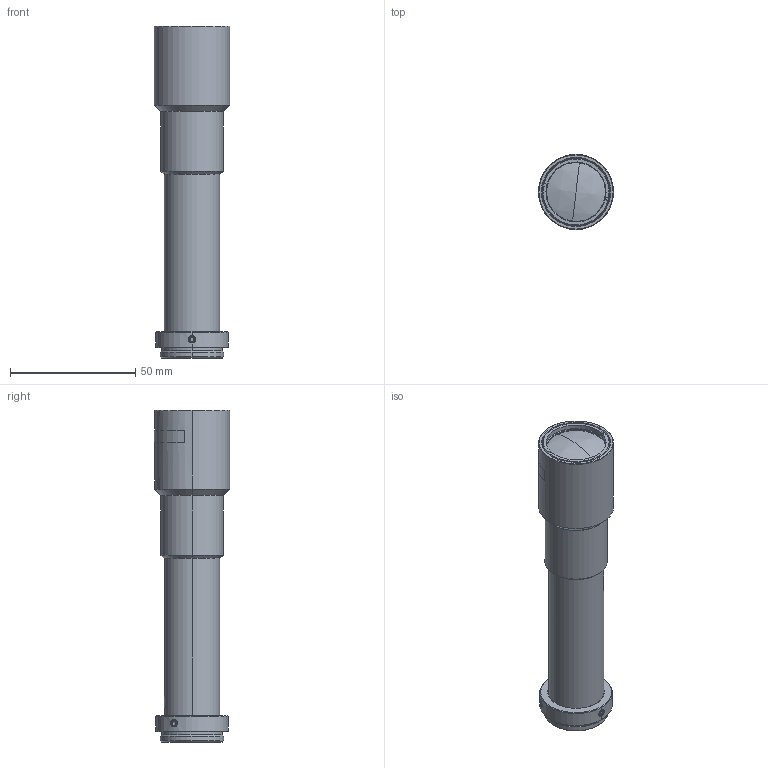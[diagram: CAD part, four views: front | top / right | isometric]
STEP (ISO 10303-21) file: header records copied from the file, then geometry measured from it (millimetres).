
FILE_DESCRIPTION (( 'STEP AP214' ), '1' );
FILE_NAME ('TEC-M40110MP_210315.STEP', '2021-03-14T23:49:55', ( '' ), ( '' ), 'SwSTEP 2.0', 'SolidWorks 2019', '' );
FILE_SCHEMA (( 'AUTOMOTIVE_DESIGN' ));
Length unit declared in the file: millimetre
Products named in the file (1): TEC-M40110MP_210315
Bounding box: 30 x 30.05 x 132.67 mm (x, y, z)
Volume: 37771.1 mm3; surface area: 25010 mm2
Topology: 10 solids, 10 shells, 302 faces, 655 edges, 404 vertices
Faces by surface type: cone 107, cylinder 102, plane 81, bspline 8, sphere 4
Entity records: 13051 total; most frequent: CARTESIAN_POINT 2854, DIRECTION 1501, ORIENTED_EDGE 1310, EDGE_CURVE 655, AXIS2_PLACEMENT_3D 608, VERTEX_POINT 404, EDGE_LOOP 349, UNCERTAINTY_MEASURE_WITH_UNIT 314
